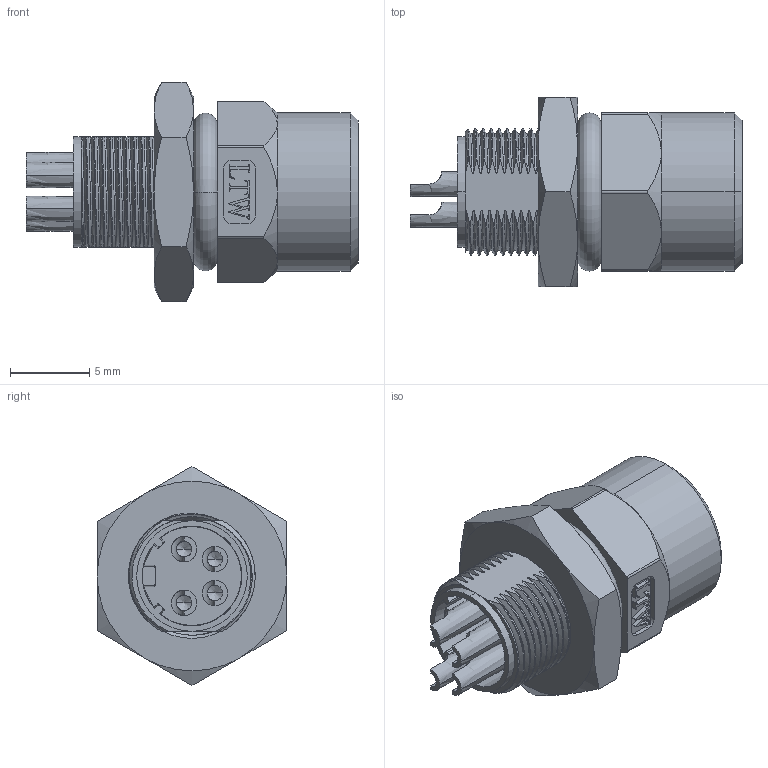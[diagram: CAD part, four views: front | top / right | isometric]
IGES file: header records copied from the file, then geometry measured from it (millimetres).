
Start section:  PTC IGES file: 8A-04PFFS-SH7001.igs
Global section: file name: 8A-04PFFS-SH7001.igs; native system: Creo Parametric by Parametric Technology Corporation; preprocessor: 2013050; author: LT0842; organization: Unknown; date: 20140307.171042; units: millimetre
Bounding box: 21 x 12 x 13.86 mm (x, y, z)
Volume: 1086.8 mm3; surface area: 1874.9 mm2
Topology: 1 solids, 1 shells, 524 faces, 1531 edges, 995 vertices
Faces by surface type: bspline 285, revolution 153, extrusion 86
